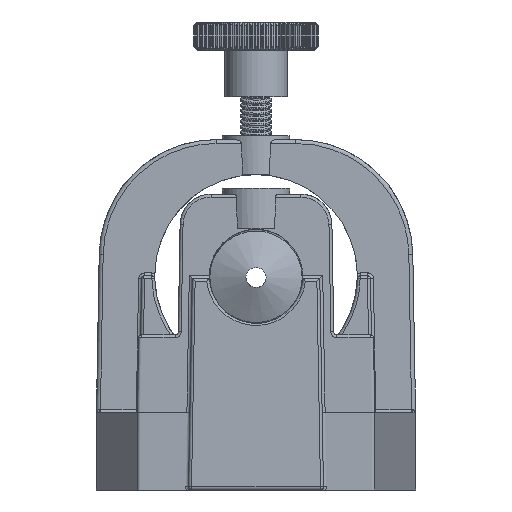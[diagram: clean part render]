
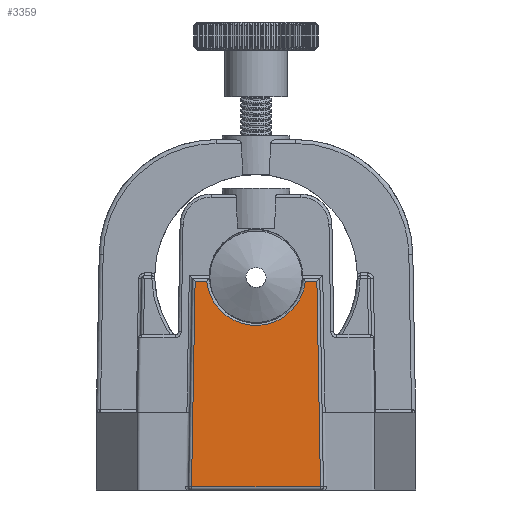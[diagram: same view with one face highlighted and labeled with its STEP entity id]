
A CAD part, front view. The second image highlights one B-rep face of the part: STEP entity #3359.
In plain terms, the highlighted planar face has unit normal (0, -1, 0.018).
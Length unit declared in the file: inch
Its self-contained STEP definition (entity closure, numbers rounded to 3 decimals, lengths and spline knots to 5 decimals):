
#1260=CARTESIAN_POINT('',(0.32611,-3.36861,0.01526));
#1261=VERTEX_POINT('',#1260);
#1516=CARTESIAN_POINT('',(-0.32611,-3.36861,0.01526));
#1517=VERTEX_POINT('',#1516);
#1518=CARTESIAN_POINT('',(0.32611,-3.36861,0.01526));
#1519=DIRECTION('',(-1.0,0.0,0.0));
#1520=VECTOR('',#1519,0.65223);
#1521=LINE('',#1518,#1520);
#1522=EDGE_CURVE('',#1261,#1517,#1521,.T.);
#3068=CARTESIAN_POINT('',(-0.30795,-3.35045,1.05578));
#3069=VERTEX_POINT('',#3068);
#3070=CARTESIAN_POINT('',(-0.32611,-3.36861,0.01526));
#3071=DIRECTION('',(0.017,0.017,1.));
#3072=VECTOR('',#3071,1.04084);
#3073=LINE('',#3070,#3072);
#3074=EDGE_CURVE('',#1517,#3069,#3073,.T.);
#3095=CARTESIAN_POINT('',(-0.24949,-3.35045,1.05578));
#3096=VERTEX_POINT('',#3095);
#3097=CARTESIAN_POINT('',(-0.30795,-3.35045,1.05578));
#3098=DIRECTION('',(1.0,0.0,0.0));
#3099=VECTOR('',#3098,0.05846);
#3100=LINE('',#3097,#3099);
#3101=EDGE_CURVE('',#3069,#3096,#3100,.T.);
#3178=CARTESIAN_POINT('',(0.24949,-3.35045,1.05578));
#3179=VERTEX_POINT('',#3178);
#3180=CARTESIAN_POINT('',(0.0,-3.34997,1.08326));
#3181=DIRECTION('',(0.0,-1.,0.017));
#3182=DIRECTION('',(0.0,-0.017,-1.));
#3183=AXIS2_PLACEMENT_3D('',#3180,#3181,#3182);
#3184=ELLIPSE('',#3183,0.25104,0.251);
#3185=EDGE_CURVE('',#3096,#3179,#3184,.T.);
#3213=CARTESIAN_POINT('',(0.30795,-3.35045,1.05578));
#3214=VERTEX_POINT('',#3213);
#3215=CARTESIAN_POINT('',(0.24949,-3.35045,1.05578));
#3216=DIRECTION('',(1.0,0.0,0.0));
#3217=VECTOR('',#3216,0.05846);
#3218=LINE('',#3215,#3217);
#3219=EDGE_CURVE('',#3179,#3214,#3218,.T.);
#3242=CARTESIAN_POINT('',(0.30795,-3.35045,1.05578));
#3243=DIRECTION('',(0.017,-0.017,-1.));
#3244=VECTOR('',#3243,1.04084);
#3245=LINE('',#3242,#3244);
#3246=EDGE_CURVE('',#3214,#1261,#3245,.T.);
#3346=CARTESIAN_POINT('',(0.3345,-3.362,0.394));
#3347=DIRECTION('',(0.0,-1.,0.017));
#3348=DIRECTION('',(1.0,0.0,0.0));
#3349=AXIS2_PLACEMENT_3D('',#3346,#3347,#3348);
#3350=PLANE('',#3349);
#3351=ORIENTED_EDGE('',*,*,#3074,.F.);
#3352=ORIENTED_EDGE('',*,*,#1522,.F.);
#3353=ORIENTED_EDGE('',*,*,#3246,.F.);
#3354=ORIENTED_EDGE('',*,*,#3219,.F.);
#3355=ORIENTED_EDGE('',*,*,#3185,.F.);
#3356=ORIENTED_EDGE('',*,*,#3101,.F.);
#3357=EDGE_LOOP('',(#3351,#3352,#3353,#3354,#3355,#3356));
#3358=FACE_OUTER_BOUND('',#3357,.T.);
#3359=ADVANCED_FACE('',(#3358),#3350,.T.);
